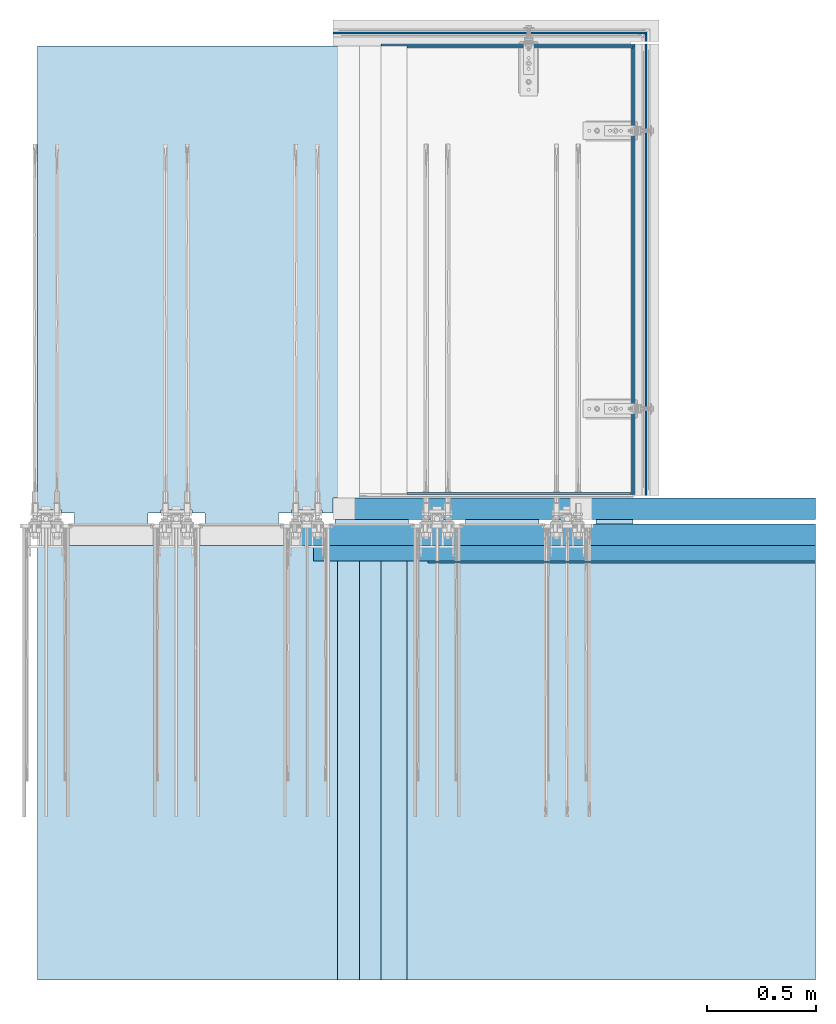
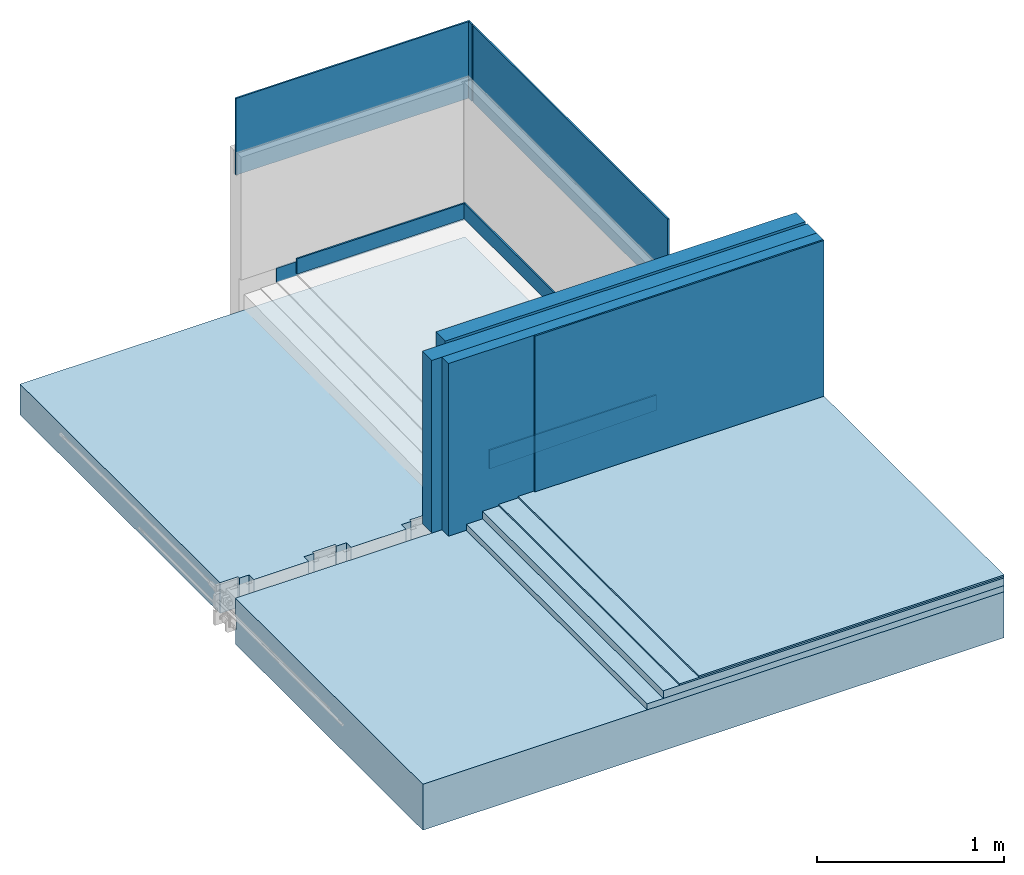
# One storey, part 1 of 17: 12 walls, 6 slabs, 7 openings.
"""IFC2X3 building model written with IfcOpenShell, lengths in metres."""

import ifcopenshell
import ifcopenshell.guid

model = None  # the IFC model being written
_history = None  # IfcOwnerHistory: only IFC2X3 demands one
_inside = {}  # id of a spatial element -> (the spatial element, [elements in it])
_under = {}  # id of a project, library or spatial element -> (it, [spatial elements below it])
_declared = {}  # id of a project -> (the project, [libraries it declares])
_typed = {}  # id of a type object -> (the type object, [elements of that type])
_made_of = {}  # id of a material, layer set ... -> (it, [elements and type objects made of it])


def new_model(schema):
    """Start an empty IFC model of exactly this schema.

    Asked for "IFC4X3", IfcOpenShell would pick the latest addendum, in which some entities
    have other attributes; the version numbers below select the first issue.
    IFC2X3 requires an IfcOwnerHistory on every rooted entity: one is made here for all.
    """
    global model, _history
    if schema == "IFC4X3":
        model = ifcopenshell.file(schema_version=(4, 3, 0, 0))
    else:
        model = ifcopenshell.file(schema=schema)
    _inside.clear()
    _under.clear()
    _declared.clear()
    _typed.clear()
    _made_of.clear()
    _history = None
    if model.schema == "IFC2X3":
        org = make("IfcOrganization", Name="unknown")
        user = make(
            "IfcPersonAndOrganization",
            ThePerson=make("IfcPerson", FamilyName="unknown"),
            TheOrganization=org,
        )
        app = make(
            "IfcApplication",
            ApplicationDeveloper=org,
            Version="unknown",
            ApplicationFullName="unknown",
            ApplicationIdentifier="unknown",
        )
        _history = make(
            "IfcOwnerHistory",
            OwningUser=user,
            OwningApplication=app,
            ChangeAction="ADDED",
            CreationDate=0,
        )
    return model


def make(cls, **values):
    """One entity of the class cls with the attributes given. An attribute that is None is left unset."""
    return model.create_entity(
        cls, **{name: value for name, value in values.items() if value is not None}
    )


def entity(cls, *values):
    """Any entity or typed value of the class cls, its attributes in the order of the schema. None: left unset."""
    e = model.create_entity(cls)
    for i, value in enumerate(values):
        if value is not None:
            e[i] = value
    return e


def rooted(cls, **values):
    """An entity with a GlobalId (a new one), such as an element, a storey or a relation."""
    return make(cls, GlobalId=ifcopenshell.guid.new(), OwnerHistory=_history, **values)


def si_unit(unit_type, name, prefix=None):
    """IfcSIUnit, for example si_unit("LENGTHUNIT", "METRE", prefix="MILLI")."""
    return make("IfcSIUnit", UnitType=unit_type, Prefix=prefix, Name=name)


def converted_unit(unit_type, name, factor, base, dimensions=None, offset=None):
    """IfcConversionBasedUnit, such as the inch: factor (a typed value) times the base unit."""
    return make(
        "IfcConversionBasedUnit"
        if offset is None
        else "IfcConversionBasedUnitWithOffset",
        ConversionOffset=offset,
        Dimensions=None
        if dimensions is None
        else entity("IfcDimensionalExponents", *dimensions),
        UnitType=unit_type,
        Name=name,
        ConversionFactor=make(
            "IfcMeasureWithUnit", ValueComponent=factor, UnitComponent=base
        ),
    )


def derived_unit(unit_type, elements):
    """IfcDerivedUnit: a product of units, each with its exponent."""
    return make(
        "IfcDerivedUnit",
        Elements=[
            make("IfcDerivedUnitElement", Unit=unit, Exponent=power)
            for unit, power in elements
        ],
        UnitType=unit_type,
    )


def assignment(units):
    """IfcUnitAssignment: the units of a project."""
    return None if units is None else make("IfcUnitAssignment", Units=units)


def point(xyz):
    """IfcCartesianPoint."""
    return None if xyz is None else make("IfcCartesianPoint", Coordinates=xyz)


def direction(xyz):
    """IfcDirection."""
    return None if xyz is None else make("IfcDirection", DirectionRatios=xyz)


def frame(location, z_axis=None, x_axis=None):
    """IfcAxis2Placement3D, a coordinate frame: its origin and axes. An axis left out is left unset."""
    return make(
        "IfcAxis2Placement3D",
        Location=point(location),
        Axis=direction(z_axis),
        RefDirection=direction(x_axis),
    )


def frame_2d(location, x_axis=None):
    """IfcAxis2Placement2D, a coordinate frame in the plane: its origin and x axis."""
    return make(
        "IfcAxis2Placement2D", Location=point(location), RefDirection=direction(x_axis)
    )


def origin():
    """The frame at (0, 0, 0) with its axes left unset."""
    return frame((0.0, 0.0, 0.0))


def place(relative_to, where):
    """IfcLocalPlacement: puts the frame where relative to a parent placement (None: the world)."""
    return make(
        "IfcLocalPlacement", PlacementRelTo=relative_to, RelativePlacement=where
    )


def context(
    kind, dimensions, precision=None, world=None, true_north=None, identifier=None
):
    """IfcGeometricRepresentationContext, for example the 3D "Model" context."""
    return make(
        "IfcGeometricRepresentationContext",
        ContextIdentifier=identifier,
        ContextType=kind,
        CoordinateSpaceDimension=dimensions,
        Precision=precision,
        WorldCoordinateSystem=world,
        TrueNorth=true_north,
    )


def subcontext(parent, identifier, kind, view, scale=None):
    """IfcGeometricRepresentationSubContext, for example "Body" below "Model"."""
    return make(
        "IfcGeometricRepresentationSubContext",
        ContextIdentifier=identifier,
        ContextType=kind,
        ParentContext=parent,
        TargetScale=scale,
        TargetView=view,
    )


def project(units=None, contexts=None):
    """IfcProject with its units and contexts."""
    return rooted(
        "IfcProject",
        Name="project",
        RepresentationContexts=contexts,
        UnitsInContext=assignment(units),
    )


def spatial(cls, under=None, at=None, **own):
    """A site, building, storey or space (cls), placed at a placement, below another one or the project."""
    s = rooted(cls, ObjectPlacement=at, **own)
    if under is not None:
        _under.setdefault(under.id(), (under, []))[1].append(s)
    return s


def polyline(points):
    """IfcPolyline through the points."""
    return make("IfcPolyline", Points=[point(p) for p in points])


def profile(cls, at=None, kind="AREA", **sizes):
    """A parametric profile (cls). Its sizes go by their IFC names, for example OverallWidth=200.0."""
    return make(cls, ProfileType=kind, Position=at, **sizes)


def rectangle(**sizes):
    """IfcRectangleProfileDef."""
    return profile("IfcRectangleProfileDef", **sizes)


def outline(outer, holes=None, kind="AREA"):
    """IfcArbitraryClosedProfileDef: a profile drawn as a closed curve; with holes, ...WithVoids."""
    if holes is None:
        return make("IfcArbitraryClosedProfileDef", ProfileType=kind, OuterCurve=outer)
    return make(
        "IfcArbitraryProfileDefWithVoids",
        ProfileType=kind,
        OuterCurve=outer,
        InnerCurves=holes,
    )


def extrude(swept, where, along, depth):
    """IfcExtrudedAreaSolid: the profile swept, set in the frame where, extruded along a direction by depth."""
    return make(
        "IfcExtrudedAreaSolid",
        SweptArea=swept,
        Position=where,
        ExtrudedDirection=direction(along),
        Depth=depth,
    )


def clip(a, b, op="DIFFERENCE"):
    """IfcBooleanClippingResult: the solid a cut by the half space b."""
    return make(
        "IfcBooleanClippingResult", Operator=op, FirstOperand=a, SecondOperand=b
    )


def halfspace(plane, agree):
    """IfcHalfSpaceSolid: all space on one side of the plane z = 0 of the frame plane."""
    return make(
        "IfcHalfSpaceSolid",
        BaseSurface=make("IfcPlane", Position=plane),
        AgreementFlag=agree,
    )


def faces_of(points, faces, orient=None, outer=None):
    """IfcFace entities. A face is a list of loops; a loop is a list of indices into points, from 0.

    orient and outer hold one flag for each loop. By default every Orientation is true, the
    first loop of a face is its IfcFaceOuterBound and the others are IfcFaceBound.
    """
    made = []
    for i, loops in enumerate(faces):
        bounds = []
        for j, loop in enumerate(loops):
            is_outer = j == 0 if outer is None else outer[i][j]
            bounds.append(
                make(
                    "IfcFaceOuterBound" if is_outer else "IfcFaceBound",
                    Bound=make("IfcPolyLoop", Polygon=[points[k] for k in loop]),
                    Orientation=True if orient is None else orient[i][j],
                )
            )
        made.append(make("IfcFace", Bounds=bounds))
    return made


def faceted_brep(points, faces, orient=None, outer=None, voids=None):
    """IfcFacetedBrep: a solid bounded by flat faces; with voids (closed shells), ...WithVoids."""
    shared = [point(p) for p in points]
    hull = make("IfcClosedShell", CfsFaces=faces_of(shared, faces, orient, outer))
    if voids is None:
        return make("IfcFacetedBrep", Outer=hull)
    return make(
        "IfcFacetedBrepWithVoids",
        Outer=hull,
        Voids=[
            make(cls, CfsFaces=faces_of(shared, fs, o, b)) for cls, fs, o, b in voids
        ],
    )


def shape(context_of_items, identifier, shape_type, items):
    """IfcShapeRepresentation: the items that make up one representation, for example the "Body"."""
    return make(
        "IfcShapeRepresentation",
        ContextOfItems=context_of_items,
        RepresentationIdentifier=identifier,
        RepresentationType=shape_type,
        Items=items,
    )


def material(Name=None, Category=None):
    """IfcMaterial."""
    return make("IfcMaterial", Name=Name, Category=Category)


def layer(
    of_material, thickness, ventilated=None, Name=None, Category=None, Priority=None
):
    """IfcMaterialLayer: one layer of a wall or slab, of a material (None: an air gap)."""
    return make(
        "IfcMaterialLayer",
        Material=of_material,
        LayerThickness=thickness,
        IsVentilated=ventilated,
        Name=Name,
        Category=Category,
        Priority=Priority,
    )


def layer_set(layers, Name=None):
    """IfcMaterialLayerSet."""
    return make("IfcMaterialLayerSet", MaterialLayers=layers, LayerSetName=Name)


def layer_usage(for_layer_set, set_direction, sense, offset, extent=None):
    """IfcMaterialLayerSetUsage: how a layer set lies in its element."""
    return make(
        "IfcMaterialLayerSetUsage",
        ForLayerSet=for_layer_set,
        LayerSetDirection=set_direction,
        DirectionSense=sense,
        OffsetFromReferenceLine=offset,
        ReferenceExtent=extent,
    )


def made_of(thing, what):
    """Note that an element or type object is made of a material, layer set ...; save() writes the relation."""
    if what is not None:
        _made_of.setdefault(what.id(), (what, []))[1].append(thing)
    return thing


def type_object(cls, material=None, **own):
    """A type object (cls), such as IfcWallType, which elements share."""
    return made_of(rooted(cls, **own), material)


def element(
    cls,
    number,
    at=None,
    inside=None,
    cuts=None,
    type_object=None,
    material=None,
    context=None,
    identifier="Body",
    shape_type=None,
    held_by="IfcProductDefinitionShape",
    body=None,
    shapes=None,
    **own,
):
    """One element of the class cls, such as IfcWall. Its Tag is "e" and its number.

    at: its placement. inside: the storey or other place that contains it. cuts: it is an
    opening in that element (IfcRelVoidsElement). A single representation is given by context,
    identifier, shape_type and body (its items); several are given by shapes. held_by: the class
    of the entity that holds the representations. save() writes the other relations.
    """
    e = rooted(cls, Tag="e%d" % number, ObjectPlacement=at, **own)
    if body is not None:
        shapes = [shape(context, identifier, shape_type, body)]
    if shapes is not None:
        e.Representation = make(held_by, Representations=shapes)
    if inside is not None:
        _inside.setdefault(inside.id(), (inside, []))[1].append(e)
    if cuts is not None:
        rooted(
            "IfcRelVoidsElement", RelatingBuildingElement=cuts, RelatedOpeningElement=e
        )
    if type_object is not None:
        _typed.setdefault(type_object.id(), (type_object, []))[1].append(e)
    return made_of(e, material)


def aggregate(whole, parts):
    """IfcRelAggregates: a whole, such as a stair, and the parts it consists of."""
    return rooted("IfcRelAggregates", RelatingObject=whole, RelatedObjects=parts)


def save(model, path):
    """Write the relations noted so far, then the file.

    IfcRelAggregates (storeys below a building ...), IfcRelContainedInSpatialStructure (elements
    in a storey), IfcRelDefinesByType, IfcRelAssociatesMaterial and IfcRelDeclares: one each for
    every whole, place, type object, material and project.
    """
    for whole, parts in _under.values():
        aggregate(whole, parts)
    for where, things in _inside.values():
        rooted(
            "IfcRelContainedInSpatialStructure",
            RelatedElements=things,
            RelatingStructure=where,
        )
    for kind, things in _typed.values():
        rooted("IfcRelDefinesByType", RelatedObjects=things, RelatingType=kind)
    for what, things in _made_of.values():
        rooted("IfcRelAssociatesMaterial", RelatedObjects=things, RelatingMaterial=what)
    for by, libraries in _declared.values():
        rooted("IfcRelDeclares", RelatingContext=by, RelatedDefinitions=libraries)
    model.write(path)


model = new_model("IFC2X3")

# Units and contexts
model_context = context("Model", 3, precision=1e-05, world=origin(), true_north=direction((6.123031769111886e-17, 1.0)))
plan_context = context("Plan", 3, precision=1e-05, world=origin(), true_north=direction((6.123031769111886e-17, 1.0)))
body_context = subcontext(model_context, "Body", "Model", "MODEL_VIEW")
ifc_project = project(units=[si_unit("LENGTHUNIT", "METRE"), si_unit("AREAUNIT", "SQUARE_METRE"), converted_unit("PLANEANGLEUNIT", "DEGREE", entity("IfcPlaneAngleMeasure", 0.017453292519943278), si_unit("PLANEANGLEUNIT", "RADIAN"), dimensions=[0, 0, 0, 0, 0, 0, 0]), si_unit("VOLUMEUNIT", "CUBIC_METRE"), derived_unit("THERMALTRANSMITTANCEUNIT", [(si_unit("MASSUNIT", "GRAM", prefix="KILO"), 1), (si_unit("THERMODYNAMICTEMPERATUREUNIT", "KELVIN"), -1), (si_unit("TIMEUNIT", "SECOND"), -3)]), derived_unit("USERDEFINED", [(si_unit("MASSUNIT", "GRAM", prefix="KILO"), 1), (si_unit("THERMODYNAMICTEMPERATUREUNIT", "KELVIN"), -1), (si_unit("TIMEUNIT", "SECOND"), -2)]), derived_unit("THERMALRESISTANCEUNIT", [(si_unit("MASSUNIT", "GRAM", prefix="KILO"), -1), (si_unit("TIMEUNIT", "SECOND"), 3), (si_unit("THERMODYNAMICTEMPERATUREUNIT", "KELVIN"), 1)]), si_unit("PRESSUREUNIT", "PASCAL"), derived_unit("MASSDENSITYUNIT", [(si_unit("MASSUNIT", "GRAM", prefix="KILO"), 1), (si_unit("LENGTHUNIT", "METRE"), -3)]), derived_unit("VAPORPERMEABILITYUNIT", [(si_unit("LENGTHUNIT", "METRE"), -1), (si_unit("TIMEUNIT", "SECOND"), 1)]), derived_unit("USERDEFINED", [(si_unit("MASSUNIT", "GRAM", prefix="KILO"), 1), (si_unit("TIMEUNIT", "SECOND"), -3), (si_unit("LENGTHUNIT", "METRE"), 3), (si_unit("ELECTRICCURRENTUNIT", "AMPERE"), -2)])], contexts=[model_context, plan_context])

# Site, building, storey
site_placement = place(None, origin())
site = spatial("IfcSite", under=ifc_project, at=site_placement, Name="Default", CompositionType="ELEMENT")
building_placement = place(site_placement, origin())
building = spatial("IfcBuilding", under=site, at=building_placement, CompositionType="ELEMENT")
storey_placement = place(building_placement, origin())
storey = spatial("IfcBuildingStorey", under=building, at=storey_placement, Name="L0", CompositionType="ELEMENT", Elevation=0.0)

# Slab, openings
ifc_material_1 = material(Name="Hormigón reforzado con fibra de vidrio")
ifc_layer_1 = layer(ifc_material_1, 0.2)
ifc_layer_set_1 = layer_set([ifc_layer_1], Name="Suelo:DPG_Balcon_Prefabricado")
ifc_layer_usage_1 = layer_usage(ifc_layer_set_1, "AXIS3", "POSITIVE", 0.0)
slab_type_1 = type_object("IfcSlabType", Name="Suelo:DPG_Balcon_Prefabricado", PredefinedType="FLOOR", material=ifc_layer_set_1)
slab_1_placement = place(storey_placement, origin())
slab_1 = element("IfcSlab", 1, at=slab_1_placement, inside=storey, type_object=slab_type_1, material=ifc_layer_usage_1, Name="Suelo:DPG_Balcon_Prefabricado", ObjectType="Suelo:DPG_Balcon_Prefabricado", PredefinedType="FLOOR", context=body_context, shape_type="SweptSolid", body=[
    extrude(outline(polyline([(-0.08374999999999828, -1.3832568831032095), (2.0512500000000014, -1.3832568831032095), (2.0512500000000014, 1.358823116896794), (-0.14874999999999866, 1.358823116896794), (-0.14874999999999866, 1.1876765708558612), (-0.09874999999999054, 1.1876765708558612), (-0.09874999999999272, 1.1276765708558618), (-0.08374999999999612, 1.1276765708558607), (-0.08374999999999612, 0.986118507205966), (-0.09874999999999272, 0.986118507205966), (-0.09874999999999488, 0.9261185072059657), (-0.14874999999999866, 0.9261185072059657), (-0.14874999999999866, 0.5876365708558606), (-0.09874999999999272, 0.5876365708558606), (-0.09874999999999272, 0.5276365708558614), (-0.08374999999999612, 0.5276365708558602), (-0.08374999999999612, 0.38607850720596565), (-0.09874999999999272, 0.38607850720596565), (-0.09874999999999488, 0.3260785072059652), (-0.14874999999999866, 0.3260785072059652), (-0.14874999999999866, -0.012403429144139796), (-0.09874999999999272, -0.012403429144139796), (-0.09874999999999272, -0.07240342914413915), (-0.08374999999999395, -0.07240342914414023), (-0.08374999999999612, -0.21396149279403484), (-0.09874999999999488, -0.21396149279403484), (-0.09874999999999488, -0.27396149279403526), (-0.14874999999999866, -0.27396149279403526), (-0.14874999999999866, -0.6124434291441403), (-0.09874999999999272, -0.6124434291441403), (-0.09874999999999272, -0.6724434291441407), (-0.08374999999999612, -0.6724434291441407), (-0.08374999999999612, -0.8140014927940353), (-0.09874999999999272, -0.8140014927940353), (-0.09874999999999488, -0.8740014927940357), (-0.14874999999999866, -0.8740014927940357), (-0.14874999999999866, -1.2124834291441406), (-0.09874999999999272, -1.2124834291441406), (-0.09874999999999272, -1.27248342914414), (-0.08374999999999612, -1.2724834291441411), (-0.08374999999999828, -1.3832568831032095)])), frame((6.528897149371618, 14.943280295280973, 0.0), z_axis=(0.0, 0.0, -1.0), x_axis=(0.0, 1.0, 0.0)), (0.0, 0.0, 1.0), 0.2000000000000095),
])
opening_1_placement = place(slab_1_placement, origin())
element("IfcOpeningElement", 2, at=opening_1_placement, cuts=slab_1, Name="Suelo:DPG_Balcon_Prefabricado", ObjectType="Opening", context=body_context, shape_type="SweptSolid", body=[
    extrude(outline(polyline([(-0.04125000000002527, -0.13077903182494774), (0.00875000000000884, -0.13077903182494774), (0.00875000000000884, -0.0707790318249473), (0.02375000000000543, -0.0707790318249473), (0.023750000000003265, 0.0707790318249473), (0.00875000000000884, 0.0707790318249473), (0.008750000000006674, 0.13077903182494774), (-0.04125000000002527, 0.13077903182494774), (-0.04125000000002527, -0.13077903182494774)])), frame((5.18563468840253, 14.835780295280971, -0.1999999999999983), z_axis=(0.0, 0.0, 1.0), x_axis=(0.0, 1.0, 0.0)), (0.0, 0.0, 1.0), 0.2000000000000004),
])
opening_2_placement = place(slab_1_placement, origin())
element("IfcOpeningElement", 3, at=opening_2_placement, cuts=slab_1, Name="Suelo:DPG_Balcon_Prefabricado", ObjectType="Opening", context=body_context, shape_type="SweptSolid", body=[
    extrude(outline(polyline([(-0.04125000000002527, -0.13077903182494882), (0.00875000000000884, -0.13077903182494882), (0.00875000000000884, -0.07077903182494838), (0.02375000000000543, -0.07077903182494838), (0.023750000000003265, 0.07077903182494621), (0.00875000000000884, 0.07077903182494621), (0.008750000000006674, 0.13077903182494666), (-0.04125000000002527, 0.13077903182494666), (-0.04125000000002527, -0.13077903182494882)])), frame((5.785674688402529, 14.835780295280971, -0.20000000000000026), z_axis=(0.0, 0.0, 1.0), x_axis=(0.0, 1.0, 0.0)), (0.0, 0.0, 1.0), 0.20000000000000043),
])
opening_3_placement = place(slab_1_placement, origin())
element("IfcOpeningElement", 4, at=opening_3_placement, cuts=slab_1, Name="Suelo:DPG_Balcon_Prefabricado", ObjectType="Opening", context=body_context, shape_type="SweptSolid", body=[
    extrude(outline(polyline([(-0.04125000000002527, -0.13077903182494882), (0.00875000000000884, -0.13077903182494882), (0.00875000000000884, -0.07077903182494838), (0.02375000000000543, -0.07077903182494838), (0.023750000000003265, 0.07077903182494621), (0.00875000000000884, 0.07077903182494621), (0.008750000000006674, 0.13077903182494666), (-0.04125000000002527, 0.13077903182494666), (-0.04125000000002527, -0.13077903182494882)])), frame((6.38571468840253, 14.835780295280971, -0.20000000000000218), z_axis=(0.0, 0.0, 1.0), x_axis=(0.0, 1.0, 0.0)), (0.0, 0.0, 1.0), 0.20000000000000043),
])
opening_4_placement = place(slab_1_placement, origin())
element("IfcOpeningElement", 5, at=opening_4_placement, cuts=slab_1, Name="Suelo:DPG_Balcon_Prefabricado", ObjectType="Opening", context=body_context, shape_type="SweptSolid", body=[
    extrude(outline(polyline([(-0.04125000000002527, -0.13077903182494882), (0.00875000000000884, -0.13077903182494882), (0.00875000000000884, -0.07077903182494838), (0.02375000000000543, -0.07077903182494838), (0.023750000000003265, 0.07077903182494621), (0.00875000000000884, 0.07077903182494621), (0.008750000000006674, 0.13077903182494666), (-0.04125000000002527, 0.13077903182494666), (-0.04125000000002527, -0.13077903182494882)])), frame((6.98575468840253, 14.835780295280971, -0.20000000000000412), z_axis=(0.0, 0.0, 1.0), x_axis=(0.0, 1.0, 0.0)), (0.0, 0.0, 1.0), 0.20000000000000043),
])
opening_5_placement = place(slab_1_placement, origin())
element("IfcOpeningElement", 6, at=opening_5_placement, cuts=slab_1, Name="Suelo:DPG_Balcon_Prefabricado", ObjectType="Opening", context=body_context, shape_type="SweptSolid", body=[
    extrude(outline(polyline([(-0.04125000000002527, -0.13077903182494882), (0.00875000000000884, -0.13077903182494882), (0.00875000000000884, -0.07077903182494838), (0.02375000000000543, -0.07077903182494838), (0.023750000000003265, 0.07077903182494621), (0.00875000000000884, 0.07077903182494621), (0.008750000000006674, 0.13077903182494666), (-0.04125000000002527, 0.13077903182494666), (-0.04125000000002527, -0.13077903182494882)])), frame((7.5857946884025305, 14.835780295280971, -0.20000000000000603), z_axis=(0.0, 0.0, 1.0), x_axis=(0.0, 1.0, 0.0)), (0.0, 0.0, 1.0), 0.20000000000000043),
])

# Slabs
ifc_material_2 = material(Name="Hormigón - Hormigón moldeado in situ")
ifc_layer_2 = layer(ifc_material_2, 0.01)
ifc_layer_set_2 = layer_set([ifc_layer_2], Name="Suelo:DPG_Pegamento cemento")
ifc_layer_usage_2 = layer_usage(ifc_layer_set_2, "AXIS3", "POSITIVE", 0.0)
slab_type_2 = type_object("IfcSlabType", Name="Suelo:DPG_Pegamento cemento", PredefinedType="FLOOR", material=ifc_layer_set_2)
slab_2_placement = place(storey_placement, origin())
element("IfcSlab", 7, at=slab_2_placement, inside=storey, type_object=slab_type_2, material=ifc_layer_usage_2, Name="Suelo:DPG_Pegamento cemento", ObjectType="Suelo:DPG_Pegamento cemento", PredefinedType="FLOOR", context=body_context, shape_type="SweptSolid", body=[
    extrude(rectangle(XDim=1.9299999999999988, YDim=1.9999999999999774, at=frame_2d((0.0, 5.551115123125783e-16), x_axis=(1.0, 0.0))), frame((7.7277202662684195, 13.659530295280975, 0.09999999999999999), z_axis=(0.0, 0.0, -1.0), x_axis=(0.0, 1.0, 0.0)), (0.0, 0.0, 1.0), 0.009999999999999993),
])
ifc_material_3 = material(Name="Azulejo, porcelana, 6 pulg.")
ifc_layer_3 = layer(ifc_material_3, 0.01)
ifc_layer_set_3 = layer_set([ifc_layer_3], Name="Suelo:DPG_Ceramica")
ifc_layer_usage_3 = layer_usage(ifc_layer_set_3, "AXIS3", "POSITIVE", 0.0)
slab_type_3 = type_object("IfcSlabType", Name="Suelo:DPG_Ceramica", PredefinedType="FLOOR", material=ifc_layer_set_3)
slab_3_placement = place(storey_placement, origin())
element("IfcSlab", 8, at=slab_3_placement, inside=storey, type_object=slab_type_3, material=ifc_layer_usage_3, Name="Suelo:DPG_Ceramica", ObjectType="Suelo:DPG_Ceramica", PredefinedType="FLOOR", context=body_context, shape_type="SweptSolid", body=[
    extrude(rectangle(XDim=1.930000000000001, YDim=1.8799999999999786, at=frame_2d((1.0547118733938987e-15, 4.996003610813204e-16), x_axis=(1.0, 0.0))), frame((7.787720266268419, 13.659530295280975, 0.10999999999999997), z_axis=(0.0, 0.0, -1.0), x_axis=(0.0, 1.0, 0.0)), (0.0, 0.0, 1.0), 0.009999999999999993),
])

# Slab, openings
ifc_material_4 = material(Name="DPG_Losa Principal Obra")
ifc_layer_4 = layer(ifc_material_4, 0.30000000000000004)
ifc_layer_set_4 = layer_set([ifc_layer_4], Name="Suelo:DPG_Losa Principal Obra")
ifc_layer_usage_4 = layer_usage(ifc_layer_set_4, "AXIS3", "POSITIVE", 0.0)
slab_type_4 = type_object("IfcSlabType", Name="Suelo:DPG_Losa Principal Obra", PredefinedType="FLOOR", material=ifc_layer_set_4)
slab_4_placement = place(storey_placement, frame((5.145640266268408, 12.694530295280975, -0.30000000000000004)))
slab_4 = element("IfcSlab", 9, at=slab_4_placement, inside=storey, type_object=slab_type_4, material=ifc_layer_usage_4, Name="Suelo:DPG_Losa Principal Obra", ObjectType="Suelo:DPG_Losa Principal Obra", PredefinedType="FLOOR", context=body_context, shape_type="SweptSolid", body=[
    extrude(rectangle(XDim=2.0, YDim=3.5820799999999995, at=frame_2d((0.0, 0.0), x_axis=(0.0, -1.0))), frame((1.7910399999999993, 1.0, 0.30000000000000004), z_axis=(0.0, 0.0, -1.0), x_axis=(-1.0, 0.0, 0.0)), (0.0, 0.0, 1.0), 0.30000000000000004),
])
opening_6_placement = place(slab_4_placement, frame((-5.1456402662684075, -12.694530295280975, 0.3000000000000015)))
element("IfcOpeningElement", 10, at=opening_6_placement, cuts=slab_4, Name="Suelo:DPG_Losa Principal Obra", ObjectType="Opening", context=body_context, shape_type="SweptSolid", body=[
    extrude(outline(polyline([(-0.04125000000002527, -0.13077903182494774), (0.00875000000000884, -0.13077903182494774), (0.00875000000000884, -0.0707790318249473), (0.02375000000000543, -0.0707790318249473), (0.023750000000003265, 0.0707790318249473), (0.00875000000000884, 0.0707790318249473), (0.008750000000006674, 0.13077903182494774), (-0.04125000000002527, 0.13077903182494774), (-0.04125000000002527, -0.13077903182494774)])), frame((5.18563468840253, 14.835780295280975, -0.19999999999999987), z_axis=(0.0, 0.0, 1.0), x_axis=(0.0, 1.0, 0.0)), (0.0, 0.0, 1.0), 0.2000000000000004),
])
opening_7_placement = place(slab_4_placement, frame((-5.1456402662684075, -12.694530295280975, 0.3000000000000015)))
element("IfcOpeningElement", 11, at=opening_7_placement, cuts=slab_4, Name="Suelo:DPG_Losa Principal Obra", ObjectType="Opening", context=body_context, shape_type="Brep", body=[
    faceted_brep([(5.280640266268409, 14.68453029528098, -0.12000000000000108), (5.09064026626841, 14.68453029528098, -0.11999999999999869), (5.08064026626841, 14.68453029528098, -0.12999999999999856), (5.080640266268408, 14.68453029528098, -0.18999999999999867), (5.090640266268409, 14.68453029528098, -0.1999999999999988), (5.280640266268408, 14.68453029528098, -0.2000000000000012), (5.290640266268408, 14.68453029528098, -0.19000000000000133), (5.29064026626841, 14.68453029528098, -0.13000000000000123), (5.31642487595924, 14.69453029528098, -0.2000000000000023), (5.280640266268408, 14.69453029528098, -0.2000000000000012), (5.09064026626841, 14.69453029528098, -0.19999999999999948), (5.054855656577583, 14.69453029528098, -0.199999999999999), (5.054855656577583, 14.794530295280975, -0.19999999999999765), (5.31642487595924, 14.794530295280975, -0.2000000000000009), (5.3164248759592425, 14.694530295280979, 0.0), (5.3164248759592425, 14.794530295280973, 0.0), (5.054855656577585, 14.794530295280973, 0.0), (5.054855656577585, 14.694530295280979, 0.0), (5.080640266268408, 14.69453029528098, -0.18999999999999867), (5.08064026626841, 14.69453029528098, -0.1299999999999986), (5.09064026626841, 14.694530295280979, -0.11999999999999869), (5.280640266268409, 14.694530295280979, -0.12000000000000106), (5.29064026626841, 14.69453029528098, -0.13000000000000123), (5.290640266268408, 14.69453029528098, -0.19000000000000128)], [[[0, 1, 2, 3, 4, 5, 6, 7]], [[8, 9, 5, 4, 10, 11, 12, 13]], [[14, 15, 16, 17]], [[17, 11, 10, 18, 19, 20, 21, 22, 23, 9, 8, 14]], [[11, 17, 16, 12]], [[12, 16, 15, 13]], [[13, 15, 14, 8]], [[0, 21, 20, 1]], [[1, 20, 19, 2]], [[2, 19, 18, 3]], [[3, 18, 10, 4]], [[5, 9, 23, 6]], [[6, 23, 22, 7]], [[7, 22, 21, 0]]]),
])

# Slabs
ifc_material_5 = material(Name="Lana de roca")
ifc_layer_5 = layer(ifc_material_5, 0.04)
ifc_layer_set_5 = layer_set([ifc_layer_5], Name="Suelo:DPG_Aislamiento Suelo")
ifc_layer_usage_5 = layer_usage(ifc_layer_set_5, "AXIS3", "POSITIVE", 0.0)
slab_type_5 = type_object("IfcSlabType", Name="Suelo:DPG_Aislamiento Suelo", PredefinedType="FLOOR", material=ifc_layer_set_5)
slab_5_placement = place(storey_placement, origin())
element("IfcSlab", 12, at=slab_5_placement, inside=storey, type_object=slab_type_5, material=ifc_layer_usage_5, Name="Suelo:DPG_Aislamiento Suelo", ObjectType="Suelo:DPG_Aislamiento Suelo", PredefinedType="FLOOR", context=body_context, shape_type="SweptSolid", body=[
    extrude(rectangle(XDim=1.930000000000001, YDim=2.199999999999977, at=frame_2d((1.0547118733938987e-15, -5.551115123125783e-16), x_axis=(1.0, 0.0))), frame((7.627720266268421, 13.659530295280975, 0.04), z_axis=(0.0, 0.0, -1.0), x_axis=(0.0, 1.0, 0.0)), (0.0, 0.0, 1.0), 0.04),
])
ifc_material_6 = material(Name="Hormigón, ligero")
ifc_layer_6 = layer(ifc_material_6, 0.05)
ifc_layer_set_6 = layer_set([ifc_layer_6], Name="Suelo:DPG_Recrecido INT")
ifc_layer_usage_6 = layer_usage(ifc_layer_set_6, "AXIS3", "POSITIVE", 0.0)
slab_type_6 = type_object("IfcSlabType", Name="Suelo:DPG_Recrecido INT", PredefinedType="FLOOR", material=ifc_layer_set_6)
slab_6_placement = place(storey_placement, origin())
element("IfcSlab", 13, at=slab_6_placement, inside=storey, type_object=slab_type_6, material=ifc_layer_usage_6, Name="Suelo:DPG_Recrecido INT", ObjectType="Suelo:DPG_Recrecido INT", PredefinedType="FLOOR", context=body_context, shape_type="SweptSolid", body=[
    extrude(rectangle(XDim=1.930000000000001, YDim=2.0999999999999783, at=frame_2d((1.0547118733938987e-15, -5.551115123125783e-16), x_axis=(1.0, 0.0))), frame((7.67772026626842, 13.659530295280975, 0.09), z_axis=(0.0, 0.0, -1.0), x_axis=(0.0, 1.0, 0.0)), (0.0, 0.0, 1.0), 0.05),
])

# Walls
ifc_layer_7 = layer(ifc_material_5, 0.1)
ifc_layer_set_7 = layer_set([ifc_layer_7], Name="Muro básico:DPG_Aislamiento")
ifc_layer_usage_7 = layer_usage(ifc_layer_set_7, "AXIS2", "NEGATIVE", 0.05)
wall_type_1 = type_object("IfcWallType", Name="Muro básico:DPG_Aislamiento", PredefinedType="STANDARD", material=ifc_layer_set_7)
wall_1_placement = place(storey_placement, frame((6.355220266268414, 14.744530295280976, 0.0)))
element("IfcWallStandardCase", 14, at=wall_1_placement, inside=storey, type_object=wall_type_1, material=ifc_layer_usage_7, Name="Muro básico:DPG_Aislamiento", ObjectType="Muro básico:DPG_Aislamiento", context=body_context, shape_type="SweptSolid", body=[
    extrude(rectangle(XDim=2.3724999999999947, YDim=0.09999999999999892, at=frame_2d((1.1862499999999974, 7.042977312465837e-16), x_axis=(-1.0, 0.0))), origin(), (0.0, 0.0, 1.0), 1.125),
])
ifc_material_7 = material(Name="Ladrillo, común, marrón")
ifc_layer_8 = layer(ifc_material_7, 0.07)
ifc_layer_set_8 = layer_set([ifc_layer_8], Name="Muro básico:DPG_Ladrillo")
ifc_layer_usage_8 = layer_usage(ifc_layer_set_8, "AXIS2", "NEGATIVE", 0.035)
wall_type_2 = type_object("IfcWallType", Name="Muro básico:DPG_Ladrillo", PredefinedType="STANDARD", material=ifc_layer_set_8)
wall_2_placement = place(storey_placement, frame((6.417720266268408, 14.659530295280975, 0.0)))
element("IfcWallStandardCase", 15, at=wall_2_placement, inside=storey, type_object=wall_type_2, material=ifc_layer_usage_8, Name="Muro básico:DPG_Ladrillo", ObjectType="Muro básico:DPG_Ladrillo", context=body_context, shape_type="SweptSolid", body=[
    extrude(rectangle(XDim=2.31, YDim=0.07000000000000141, at=frame_2d((1.155, -8.569533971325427e-16), x_axis=(-1.0, 0.0))), origin(), (0.0, 0.0, 1.0), 1.125),
])
ifc_material_8 = material(Name="Enlucido")
ifc_layer_9 = layer(ifc_material_8, 0.01)
ifc_layer_set_9 = layer_set([ifc_layer_9], Name="Muro básico:DPG_Enlucido")
ifc_layer_usage_9 = layer_usage(ifc_layer_set_9, "AXIS2", "NEGATIVE", 0.005000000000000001)
wall_type_3 = type_object("IfcWallType", Name="Muro básico:DPG_Enlucido", PredefinedType="STANDARD", material=ifc_layer_set_9)
wall_3_placement = place(storey_placement, frame((6.945223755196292, 14.619530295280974, 0.1099999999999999)))
element("IfcWallStandardCase", 16, at=wall_3_placement, inside=storey, type_object=wall_type_3, material=ifc_layer_usage_9, Name="Muro básico:DPG_Enlucido", ObjectType="Muro básico:DPG_Enlucido", context=body_context, shape_type="SweptSolid", body=[
    extrude(rectangle(XDim=1.7824965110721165, YDim=0.010000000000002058, at=frame_2d((0.8912482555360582, 0.0), x_axis=(-1.0, 0.0))), origin(), (0.0, 0.0, 1.0), 1.0150000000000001),
])
ifc_material_9 = material(Name="Hormigón panel")
ifc_layer_10 = layer(ifc_material_9, 0.1)
ifc_layer_set_10 = layer_set([ifc_layer_10], Name="Muro básico:DPG_Panel_Pref")
ifc_layer_usage_10 = layer_usage(ifc_layer_set_10, "AXIS2", "NEGATIVE", 0.05)
wall_type_4 = type_object("IfcWallType", Name="Muro básico:DPG_Panel_Pref", PredefinedType="STANDARD", material=ifc_layer_set_10)
wall_4_placement = place(storey_placement, frame((6.50772026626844, 14.864530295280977, 0.020000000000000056)))
element("IfcWallStandardCase", 17, at=wall_4_placement, inside=storey, type_object=wall_type_4, material=ifc_layer_usage_10, Name="Muro básico:DPG_Panel_Pref", ObjectType="Muro básico:DPG_Panel_Pref", context=body_context, shape_type="SweptSolid", body=[
    extrude(rectangle(XDim=2.219999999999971, YDim=0.09999999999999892, at=frame_2d((1.1099999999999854, 3.0878077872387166e-16), x_axis=(-1.0, 0.0))), origin(), (0.0, 0.0, 1.0), 1.105),
])
ifc_layer_11 = layer(ifc_material_2, 0.01)
ifc_layer_set_11 = layer_set([ifc_layer_11], Name="Muro básico:DPG_Pegamento cementoso")
ifc_layer_usage_11 = layer_usage(ifc_layer_set_11, "AXIS2", "NEGATIVE", 0.005000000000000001)
wall_type_5 = type_object("IfcWallType", Name="Muro básico:DPG_Pegamento cementoso", PredefinedType="STANDARD", material=ifc_layer_set_11)
wall_5_placement = place(storey_placement, frame((6.727720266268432, 16.999530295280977, 0.10873267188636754)))
element("IfcWallStandardCase", 18, at=wall_5_placement, inside=storey, type_object=wall_type_5, material=ifc_layer_usage_11, Name="Muro básico:DPG_Pegamento cementoso", ObjectType="Muro básico:DPG_Pegamento cementoso", context=body_context, shape_type="SweptSolid", body=[
    extrude(rectangle(XDim=1.17000000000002, YDim=0.01000000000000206, at=frame_2d((0.58500000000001, -4.419208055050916e-16), x_axis=(-1.0, 0.0))), origin(), (0.0, 0.0, 1.0), 0.09126732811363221),
])
ifc_layer_usage_12 = layer_usage(ifc_layer_set_11, "AXIS2", "POSITIVE", -0.005000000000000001)
wall_6_placement = place(storey_placement, frame((7.892720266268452, 16.994530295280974, 0.10873267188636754), z_axis=(0.0, 0.0, 1.0), x_axis=(0.0, -1.0, 0.0)))
element("IfcWallStandardCase", 19, at=wall_6_placement, inside=storey, type_object=wall_type_5, material=ifc_layer_usage_12, Name="Muro básico:DPG_Pegamento cementoso", ObjectType="Muro básico:DPG_Pegamento cementoso", context=body_context, shape_type="SweptSolid", body=[
    extrude(rectangle(XDim=2.0650000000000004, YDim=0.009999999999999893, at=frame_2d((1.0325000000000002, -1.1709383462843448e-17), x_axis=(-1.0, 0.0))), origin(), (0.0, 0.0, 1.0), 0.09126732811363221),
])
ifc_material_10 = material(Name="Vidrio")
ifc_layer_12 = layer(ifc_material_10, 0.01)
ifc_layer_set_12 = layer_set([ifc_layer_12], Name="Muro básico:DPG_Vidrio")
ifc_layer_usage_13 = layer_usage(ifc_layer_set_12, "AXIS2", "NEGATIVE", 0.005000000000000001)
wall_type_6 = type_object("IfcWallType", Name="Muro básico:DPG_Vidrio", PredefinedType="STANDARD", material=ifc_layer_set_12)
wall_7_placement = place(storey_placement, frame((6.50772026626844, 17.05453029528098, 0.8499999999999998)))
element("IfcWallStandardCase", 20, at=wall_7_placement, inside=storey, type_object=wall_type_6, material=ifc_layer_usage_13, Name="Muro básico:DPG_Vidrio", ObjectType="Muro básico:DPG_Vidrio", context=body_context, shape_type="SweptSolid", body=[
    extrude(rectangle(XDim=1.4449999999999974, YDim=0.010000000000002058, at=frame_2d((0.7224999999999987, -7.936359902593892e-17), x_axis=(-1.0, 0.0))), origin(), (0.0, 0.0, 1.0), 0.5),
])
ifc_layer_usage_14 = layer_usage(ifc_layer_set_12, "AXIS2", "POSITIVE", -0.005000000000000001)
wall_8_placement = place(storey_placement, frame((7.947720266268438, 17.014530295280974, 0.8499999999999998), z_axis=(0.0, 0.0, 1.0), x_axis=(0.0, 1.0, 0.0)))
element("IfcWallStandardCase", 21, at=wall_8_placement, inside=storey, type_object=wall_type_6, material=ifc_layer_usage_14, Name="Muro básico:DPG_Vidrio", ObjectType="Muro básico:DPG_Vidrio", context=body_context, shape_type="SweptSolid", body=[
    extrude(rectangle(XDim=0.035000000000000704, YDim=0.009999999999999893, at=frame_2d((0.017500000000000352, 0.0), x_axis=(-1.0, 0.0))), origin(), (0.0, 0.0, 1.0), 0.5),
])
ifc_layer_usage_15 = layer_usage(ifc_layer_set_12, "AXIS2", "NEGATIVE", 0.005000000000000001)
wall_9_placement = place(storey_placement, frame((7.947720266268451, 17.00453029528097, 0.8499999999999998), z_axis=(0.0, 0.0, 1.0), x_axis=(0.0, -1.0, 0.0)))
element("IfcWallStandardCase", 22, at=wall_9_placement, inside=storey, type_object=wall_type_6, material=ifc_layer_usage_15, Name="Muro básico:DPG_Vidrio", ObjectType="Muro básico:DPG_Vidrio", context=body_context, shape_type="SweptSolid", body=[
    extrude(rectangle(XDim=2.079999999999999, YDim=0.009999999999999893, at=frame_2d((1.0399999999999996, 0.0), x_axis=(-1.0, 0.0))), origin(), (0.0, 0.0, 1.0), 0.5),
])
ifc_layer_13 = layer(ifc_material_3, 0.01)
ifc_layer_set_13 = layer_set([ifc_layer_13], Name="Muro básico:DPG_Rodapie")
ifc_layer_usage_16 = layer_usage(ifc_layer_set_13, "AXIS2", "NEGATIVE", 0.005000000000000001)
wall_type_7 = type_object("IfcWallType", Name="Muro básico:DPG_Rodapie", PredefinedType="STANDARD", material=ifc_layer_set_13)
wall_10_placement = place(storey_placement, frame((6.8477202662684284, 16.989530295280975, 0.1256544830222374)))
element("IfcWallStandardCase", 23, at=wall_10_placement, inside=storey, type_object=wall_type_7, material=ifc_layer_usage_16, Name="Muro básico:DPG_Rodapie", ObjectType="Muro básico:DPG_Rodapie", context=body_context, shape_type="SweptSolid", body=[
    extrude(rectangle(XDim=1.0399999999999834, YDim=0.01000000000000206, at=frame_2d((0.5199999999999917, 5.637851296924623e-18), x_axis=(-1.0, 0.0))), origin(), (0.0, 0.0, 1.0), 0.1),
])
ifc_layer_usage_17 = layer_usage(ifc_layer_set_13, "AXIS2", "NEGATIVE", 0.005000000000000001)
wall_11_placement = place(storey_placement, frame((7.882720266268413, 16.984530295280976, 0.1256544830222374), z_axis=(0.0, 0.0, 1.0), x_axis=(0.0, -1.0, 0.0)))
element("IfcWallStandardCase", 24, at=wall_11_placement, inside=storey, type_object=wall_type_7, material=ifc_layer_usage_17, Name="Muro básico:DPG_Rodapie", ObjectType="Muro básico:DPG_Rodapie", context=body_context, shape_type="SweptSolid", body=[
    extrude(rectangle(XDim=2.0550000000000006, YDim=0.009999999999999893, at=frame_2d((1.0275000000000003, -7.806255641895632e-18), x_axis=(-1.0, 0.0))), origin(), (0.0, 0.0, 1.0), 0.1),
])
ifc_layer_usage_18 = layer_usage(ifc_layer_set_13, "AXIS2", "NEGATIVE", 0.005000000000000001)
wall_12_placement = place(storey_placement, frame((7.877720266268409, 14.934530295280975, 0.10210000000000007), z_axis=(0.0, 0.0, 1.0), x_axis=(-1.0, 0.0, 0.0)))
element("IfcWallStandardCase", 25, at=wall_12_placement, inside=storey, type_object=wall_type_7, material=ifc_layer_usage_18, Name="Muro básico:DPG_Rodapie", ObjectType="Muro básico:DPG_Rodapie", context=body_context, shape_type="Clipping", body=[
    clip(extrude(rectangle(XDim=1.0299999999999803, YDim=0.01000000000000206, at=frame_2d((0.5149999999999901, -2.0383000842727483e-17), x_axis=(-1.0, 0.0))), origin(), (0.0, 0.0, 1.0), 0.12355448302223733), halfspace(frame((1.0299999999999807, -0.004999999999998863, 0.0), z_axis=(-0.022014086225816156, 0.0, -0.9997576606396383), x_axis=(0.0, 1.0, 0.0)), False)),
])

save(model, "model.ifc")
